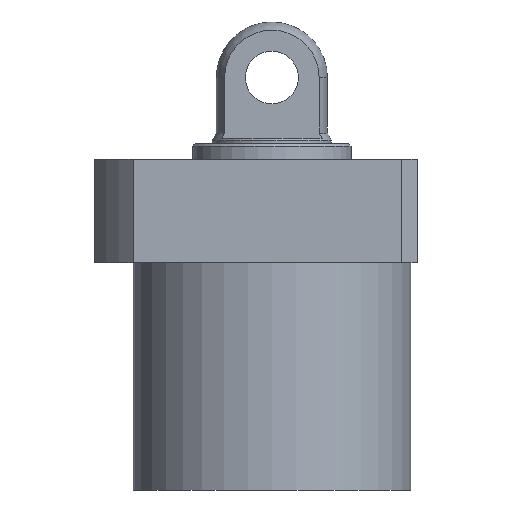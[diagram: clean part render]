
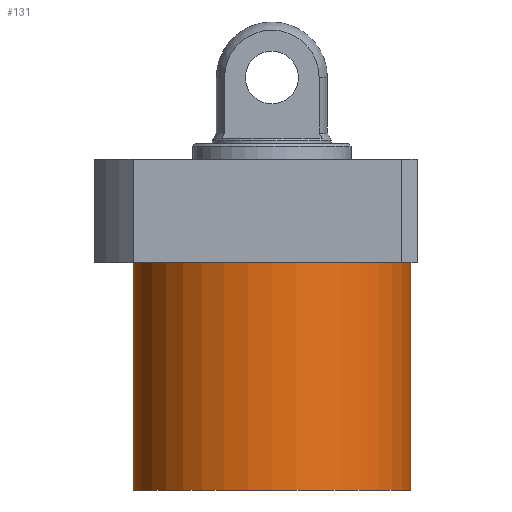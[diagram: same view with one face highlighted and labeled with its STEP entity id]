
A CAD part, front view. The second image highlights one B-rep face of the part: STEP entity #131.
In plain terms, the highlighted cylindrical face has radius 52.5 mm (diameter 105 mm), a partial arc.
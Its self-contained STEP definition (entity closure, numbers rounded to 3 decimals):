
#114 = VERTEX_POINT ( 'NONE', #552 ) ;
#131 = ADVANCED_FACE ( 'NONE', ( #948 ), #194, .T. ) ;
#143 = AXIS2_PLACEMENT_3D ( 'NONE', #1748, #1207, #1618 ) ;
#160 = ORIENTED_EDGE ( 'NONE', *, *, #323, .F. ) ;
#194 = CYLINDRICAL_SURFACE ( 'NONE', #621, 52.5 ) ;
#215 = ORIENTED_EDGE ( 'NONE', *, *, #797, .T. ) ;
#244 = VERTEX_POINT ( 'NONE', #1111 ) ;
#253 = CARTESIAN_POINT ( 'NONE',  ( 0., 0., -105.5 ) ) ;
#311 = DIRECTION ( 'NONE',  ( 0., 0., -1. ) ) ;
#323 = EDGE_CURVE ( 'NONE', #114, #467, #1463, .T. ) ;
#467 = VERTEX_POINT ( 'NONE', #1051 ) ;
#515 = CARTESIAN_POINT ( 'NONE',  ( 52.5, 0., -105.5 ) ) ;
#520 = ORIENTED_EDGE ( 'NONE', *, *, #1128, .T. ) ;
#552 = CARTESIAN_POINT ( 'NONE',  ( -52.5, 0., -105.5 ) ) ;
#582 = EDGE_LOOP ( 'NONE', ( #160, #620, #520, #215 ) ) ;
#589 = CARTESIAN_POINT ( 'NONE',  ( 52.5, 0., -105.5 ) ) ;
#613 = AXIS2_PLACEMENT_3D ( 'NONE', #722, #311, #710 ) ;
#620 = ORIENTED_EDGE ( 'NONE', *, *, #1666, .F. ) ;
#621 = AXIS2_PLACEMENT_3D ( 'NONE', #253, #1094, #704 ) ;
#625 = CARTESIAN_POINT ( 'NONE',  ( -52.5, 0., -105.5 ) ) ;
#704 = DIRECTION ( 'NONE',  ( 1., 0., 0. ) ) ;
#710 = DIRECTION ( 'NONE',  ( -1., 0., 0. ) ) ;
#722 = CARTESIAN_POINT ( 'NONE',  ( 0., 0., -105.5 ) ) ;
#797 = EDGE_CURVE ( 'NONE', #244, #467, #1541, .T. ) ;
#834 = LINE ( 'NONE', #589, #1333 ) ;
#948 = FACE_OUTER_BOUND ( 'NONE', #582, .T. ) ;
#1051 = CARTESIAN_POINT ( 'NONE',  ( -52.5, 0., -19.5 ) ) ;
#1094 = DIRECTION ( 'NONE',  ( 0., 0., 1. ) ) ;
#1111 = CARTESIAN_POINT ( 'NONE',  ( 52.5, 0., -19.5 ) ) ;
#1128 = EDGE_CURVE ( 'NONE', #1382, #244, #834, .T. ) ;
#1176 = DIRECTION ( 'NONE',  ( 0., 0., 1. ) ) ;
#1207 = DIRECTION ( 'NONE',  ( 0., 0., -1. ) ) ;
#1333 = VECTOR ( 'NONE', #1567, 1000. ) ;
#1382 = VERTEX_POINT ( 'NONE', #515 ) ;
#1463 = LINE ( 'NONE', #625, #1512 ) ;
#1512 = VECTOR ( 'NONE', #1176, 1000. ) ;
#1541 = CIRCLE ( 'NONE', #143, 52.5 ) ;
#1567 = DIRECTION ( 'NONE',  ( 0., 0., 1. ) ) ;
#1595 = CIRCLE ( 'NONE', #613, 52.5 ) ;
#1618 = DIRECTION ( 'NONE',  ( 1., 0., 0. ) ) ;
#1666 = EDGE_CURVE ( 'NONE', #1382, #114, #1595, .T. ) ;
#1748 = CARTESIAN_POINT ( 'NONE',  ( 0., 0., -19.5 ) ) ;
